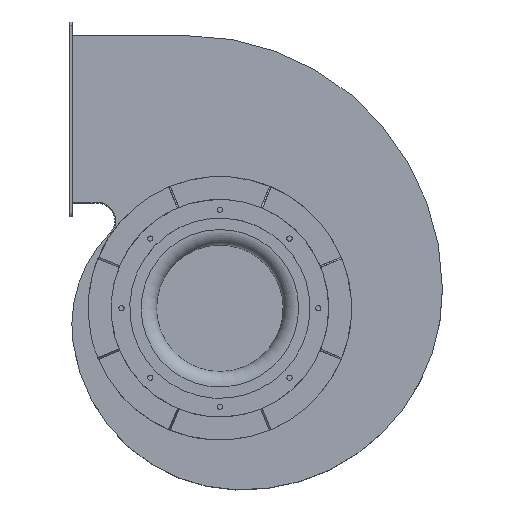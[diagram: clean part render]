
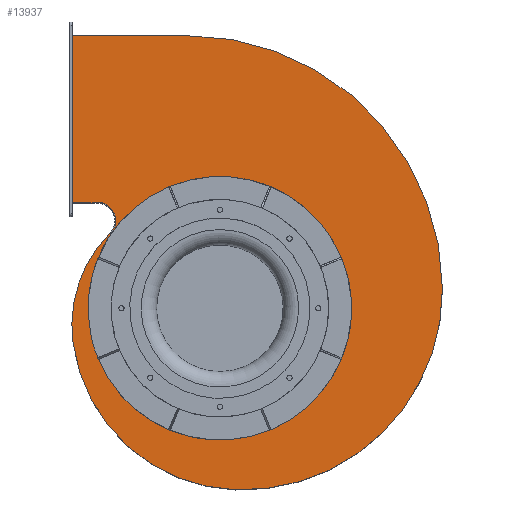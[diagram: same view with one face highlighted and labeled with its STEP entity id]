
A CAD part, top view. The second image highlights one B-rep face of the part: STEP entity #13937.
In plain terms, the highlighted planar face has unit normal (0, 0, 1).
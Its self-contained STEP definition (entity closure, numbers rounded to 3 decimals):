
#129=FACE_BOUND('',#2375,.T.);
#357=PLANE('',#14607);
#1513=FACE_OUTER_BOUND('',#2374,.T.);
#2374=EDGE_LOOP('',(#12763,#12764,#12765,#12766,#12767,#12768,#12769,#12770,
#12771,#12772,#12773,#12774,#12775,#12776,#12777));
#2375=EDGE_LOOP('',(#12778));
#2546=CIRCLE('',#14229,228.775);
#2548=CIRCLE('',#14232,444.4);
#2554=CIRCLE('',#14242,296.769);
#2582=CIRCLE('',#14274,230.);
#2624=CIRCLE('',#14328,349.298);
#2627=CIRCLE('',#14335,32.5);
#2714=CIRCLE('',#14608,32.5);
#3344=LINE('',#29930,#4336);
#3351=LINE('',#29952,#4343);
#3358=LINE('',#29991,#4350);
#3428=LINE('',#30325,#4420);
#3704=LINE('',#31070,#4696);
#3705=LINE('',#31072,#4697);
#3706=LINE('',#31075,#4698);
#4336=VECTOR('',#15716,10.);
#4343=VECTOR('',#15733,10.);
#4350=VECTOR('',#15768,10.);
#4420=VECTOR('',#16094,10.);
#4696=VECTOR('',#16914,10.);
#4697=VECTOR('',#16915,10.);
#4698=VECTOR('',#16918,10.);
#6381=VERTEX_POINT('',#29921);
#6385=VERTEX_POINT('',#29928);
#6395=VERTEX_POINT('',#29949);
#6413=VERTEX_POINT('',#29988);
#6449=VERTEX_POINT('',#30074);
#6450=VERTEX_POINT('',#30076);
#6451=VERTEX_POINT('',#30080);
#6465=VERTEX_POINT('',#30115);
#6497=VERTEX_POINT('',#30189);
#6548=VERTEX_POINT('',#30321);
#6549=VERTEX_POINT('',#30323);
#6746=VERTEX_POINT('',#31069);
#6747=VERTEX_POINT('',#31071);
#6748=VERTEX_POINT('',#31073);
#8209=EDGE_CURVE('',#6381,#6385,#3344,.T.);
#8220=EDGE_CURVE('',#6395,#6381,#3351,.T.);
#8239=EDGE_CURVE('',#6395,#6413,#3358,.T.);
#8281=EDGE_CURVE('',#6449,#6450,#2546,.T.);
#8283=EDGE_CURVE('',#6451,#6413,#2548,.T.);
#8301=EDGE_CURVE('',#6465,#6449,#2554,.T.);
#8338=EDGE_CURVE('',#6497,#6497,#2582,.T.);
#8394=EDGE_CURVE('',#6451,#6465,#2624,.T.);
#8404=EDGE_CURVE('',#6548,#6549,#2627,.T.);
#8405=EDGE_CURVE('',#6385,#6549,#3428,.T.);
#8767=EDGE_CURVE('',#6549,#6746,#3704,.T.);
#8768=EDGE_CURVE('',#6746,#6747,#3705,.T.);
#8769=EDGE_CURVE('',#6748,#6548,#2714,.T.);
#8770=EDGE_CURVE('',#6450,#6748,#3706,.T.);
#12763=ORIENTED_EDGE('',*,*,#8220,.T.);
#12764=ORIENTED_EDGE('',*,*,#8209,.T.);
#12765=ORIENTED_EDGE('',*,*,#8405,.T.);
#12766=ORIENTED_EDGE('',*,*,#8767,.T.);
#12767=ORIENTED_EDGE('',*,*,#8768,.T.);
#12768=ORIENTED_EDGE('',*,*,#8768,.F.);
#12769=ORIENTED_EDGE('',*,*,#8767,.F.);
#12770=ORIENTED_EDGE('',*,*,#8404,.F.);
#12771=ORIENTED_EDGE('',*,*,#8769,.F.);
#12772=ORIENTED_EDGE('',*,*,#8770,.F.);
#12773=ORIENTED_EDGE('',*,*,#8281,.F.);
#12774=ORIENTED_EDGE('',*,*,#8301,.F.);
#12775=ORIENTED_EDGE('',*,*,#8394,.F.);
#12776=ORIENTED_EDGE('',*,*,#8283,.T.);
#12777=ORIENTED_EDGE('',*,*,#8239,.F.);
#12778=ORIENTED_EDGE('',*,*,#8338,.T.);
#13937=ADVANCED_FACE('',(#1513,#129),#357,.T.);
#14229=AXIS2_PLACEMENT_3D('',#30077,#15838,#15839);
#14232=AXIS2_PLACEMENT_3D('',#30081,#15844,#15845);
#14242=AXIS2_PLACEMENT_3D('',#30117,#15876,#15877);
#14274=AXIS2_PLACEMENT_3D('',#30190,#15949,#15950);
#14328=AXIS2_PLACEMENT_3D('',#30305,#16071,#16072);
#14335=AXIS2_PLACEMENT_3D('',#30324,#16092,#16093);
#14607=AXIS2_PLACEMENT_3D('',#31068,#16912,#16913);
#14608=AXIS2_PLACEMENT_3D('',#31074,#16916,#16917);
#15716=DIRECTION('',(1.,0.,0.));
#15733=DIRECTION('',(0.,-1.,0.));
#15768=DIRECTION('',(1.,0.,0.));
#15838=DIRECTION('center_axis',(0.,0.,
-1.));
#15839=DIRECTION('ref_axis',(-0.99,-0.138,0.));
#15844=DIRECTION('center_axis',(0.,0.,
1.));
#15845=DIRECTION('ref_axis',(0.,1.,0.));
#15876=DIRECTION('center_axis',(0.,0.,
-1.));
#15877=DIRECTION('ref_axis',(-0.987,-0.163,0.));
#15949=DIRECTION('center_axis',(0.,0.,
-1.));
#15950=DIRECTION('ref_axis',(-0.981,-0.195,0.));
#16071=DIRECTION('center_axis',(0.,0.,
-1.));
#16072=DIRECTION('ref_axis',(-0.014,-1.,0.));
#16092=DIRECTION('center_axis',(0.,0.,
1.));
#16093=DIRECTION('ref_axis',(0.636,-0.772,0.));
#16094=DIRECTION('',(0.,1.,0.));
#16912=DIRECTION('center_axis',(0.,0.,
1.));
#16913=DIRECTION('ref_axis',(1.,0.,0.));
#16914=DIRECTION('',(-1.,0.,0.));
#16915=DIRECTION('',(-1.,0.,0.));
#16916=DIRECTION('center_axis',(0.,0.,
1.));
#16917=DIRECTION('ref_axis',(0.636,-0.772,0.));
#16918=DIRECTION('',(0.711,-0.703,0.));
#29921=CARTESIAN_POINT('',(-5633.807,2662.248,247.));
#29928=CARTESIAN_POINT('',(-5590.681,2662.248,247.));
#29930=CARTESIAN_POINT('',(-3436.245,2662.248,247.));
#29949=CARTESIAN_POINT('',(-5633.807,2954.248,247.));
#29952=CARTESIAN_POINT('',(-5633.807,2704.112,247.));
#29988=CARTESIAN_POINT('',(-5432.007,2954.248,247.));
#29991=CARTESIAN_POINT('',(-5628.045,2954.248,247.));
#30074=CARTESIAN_POINT('',(-5632.672,2416.931,247.));
#30076=CARTESIAN_POINT('',(-5568.782,2609.306,247.));
#30077=CARTESIAN_POINT('Origin',(-5406.083,2448.474,247.));
#30080=CARTESIAN_POINT('',(-4987.614,2512.176,247.));
#30081=CARTESIAN_POINT('Origin',(-5432.007,2509.849,247.));
#30115=CARTESIAN_POINT('',(-5349.08,2161.261,247.));
#30117=CARTESIAN_POINT('Origin',(-5338.738,2457.85,247.));
#30189=CARTESIAN_POINT('',(-5601.888,2433.378,247.));
#30190=CARTESIAN_POINT('Origin',(-5376.307,2478.248,247.));
#30305=CARTESIAN_POINT('Origin',(-5336.907,2510.347,247.));
#30321=CARTESIAN_POINT('',(-5567.587,2608.382,247.));
#30323=CARTESIAN_POINT('',(-5590.681,2663.748,247.));
#30324=CARTESIAN_POINT('Origin',(-5590.681,2631.248,247.));
#30325=CARTESIAN_POINT('',(-5590.681,2664.408,247.));
#31068=CARTESIAN_POINT('Origin',(-5573.48,2599.975,247.));
#31069=CARTESIAN_POINT('',(-5594.504,2663.748,247.));
#31070=CARTESIAN_POINT('',(-5592.593,2663.748,247.));
#31071=CARTESIAN_POINT('',(-5607.507,2663.748,247.));
#31072=CARTESIAN_POINT('',(-4537.407,2663.748,247.));
#31073=CARTESIAN_POINT('',(-5567.716,2608.252,247.));
#31074=CARTESIAN_POINT('Origin',(-5590.681,2631.248,247.));
#31075=CARTESIAN_POINT('',(-5568.184,2608.716,247.));
